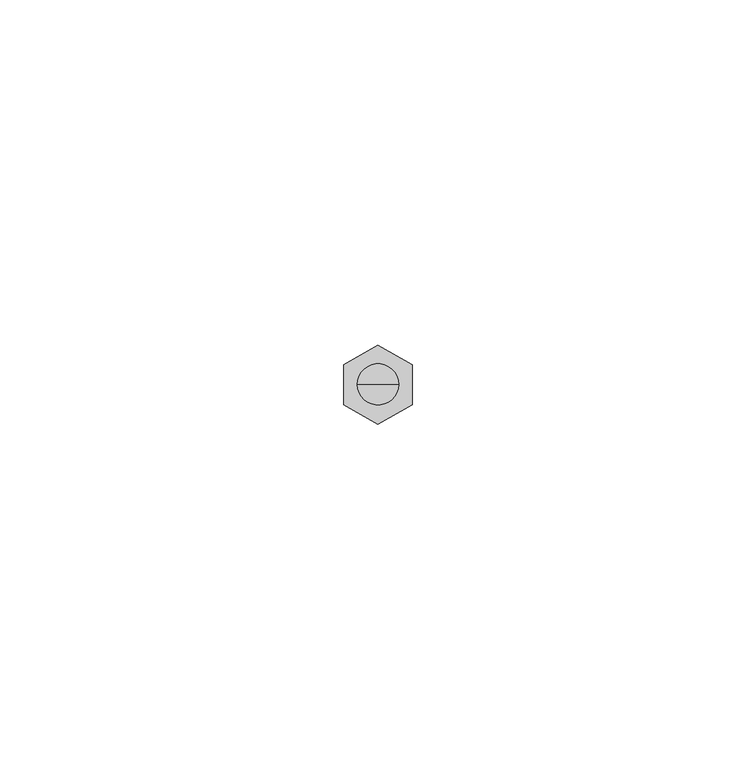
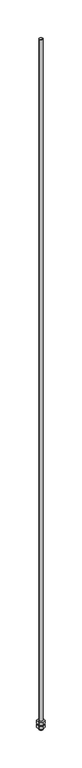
"""IFC4 building model written with IfcOpenShell, lengths in millimetres: proxy geometry, durlum_threaded_rod_M6 : durlum_threaded_rod_M6."""

from ifc_helpers import new_model, si_unit, frame, origin, origin_with_axes, place, context, project, spatial, polyline, circle_curve, outline, extrude, source, transform, mapped, element, save
from ifc_brep_helpers import plane_surface, cylinder_surface, advanced_brep


def generic_models_2999ce62(model_context):
    return source(origin(), model_context, "Body", "SolidModel", [
        extrude(outline(polyline([(5.0, 3.0421914), (5.0, -2.7313113), (0.0, -5.6180626), (-5.0, -2.7313113), (-5.0, 3.0421914), (0.0, 5.9289428), (5.0, 3.0421914)])), frame((0.0, 0.0, -7.0), z_axis=(0.0, 0.0, 1.0), x_axis=(1.0, 0.0, 0.0)), (0.0, 0.0, 1.0), 5.0),
        extrude(outline(polyline([(5.0, 3.0421914), (5.0, -2.7313113), (0.0, -5.6180626), (-5.0, -2.7313113), (-5.0, 3.0421914), (0.0, 5.9289428), (5.0, 3.0421914)])), origin_with_axes(), (0.0, 0.0, 1.0), 5.0),
        advanced_brep(
        [(-3.0, 0.0, 1161.1920963), (3.0, 0.0, 1161.1920963), (3.0, 0.0, -10.0), (-3.0, 0.0, -10.0), (0.0, 0.0, 1161.1920963), (0.0, 0.0, -10.0)],
        [
            (0, 1, circle_curve(frame((0.0, 0.0, 1161.1920963), z_axis=(0.0, 0.0, -1.0), x_axis=(1.0, 0.0, 0.0)), 3.0)),
            (1, 2),
            (2, 3, circle_curve(frame((0.0, 0.0, -10.0), z_axis=(0.0, 0.0, 1.0), x_axis=(1.0, 0.0, 0.0)), 3.0)),
            (3, 0),
            (1, 0, circle_curve(frame((0.0, 0.0, 1161.1920963), z_axis=(0.0, 0.0, -1.0), x_axis=(1.0, 0.0, 0.0)), 3.0)),
            (3, 2, circle_curve(frame((0.0, 0.0, -10.0), z_axis=(0.0, 0.0, 1.0), x_axis=(1.0, 0.0, 0.0)), 3.0)),
            (4, 1),
            (0, 4),
            (2, 5),
            (5, 3),
        ],
        [
            cylinder_surface(frame((0.0, 0.0, -675.0), z_axis=(0.0, 0.0, 1.0), x_axis=(1.0, 0.0, 0.0)), 3.0),
            plane_surface(frame((0.0, 0.0, 1161.1920963), z_axis=(0.0, 0.0, 1.0), x_axis=(1.0, 0.0, 0.0))),
            plane_surface(frame((0.0, 0.0, -10.0), z_axis=(0.0, 0.0, -1.0), x_axis=(1.0, 0.0, 0.0))),
        ],
        [
            (0, [[1, 2, 3, 4]]),
            (0, [[5, -4, 6, -2]]),
            (1, [[7, -1, 8]]),
            (1, [[-8, -5, -7]]),
            (2, [[-3, 9, 10]]),
            (2, [[-6, -10, -9]]),
        ],
    ),
    ])


if __name__ == "__main__":
    model = new_model("IFC4")
    model_context = context("Model", 3, world=origin())
    ifc_project = project(units=[si_unit("LENGTHUNIT", "METRE", prefix="MILLI")], contexts=[model_context])
    site = spatial("IfcSite", under=ifc_project)
    building = spatial("IfcBuilding", under=site)
    placement = place(None, origin())
    generic_models_shape = generic_models_2999ce62(model_context)
    element("IfcBuildingElementProxy", 1, Name="durlum_threaded_rod_M6 : durlum_threaded_rod_M6", ObjectType="durlum_threaded_rod_M6 : durlum_threaded_rod_M6", at=placement, inside=building, context=model_context, shape_type="MappedRepresentation", body=[
        mapped(generic_models_shape, transform((0.0, 0.0, 0.0), x_axis=(1.0, 0.0, 0.0), y_axis=(0.0, 1.0, 0.0), z_axis=(0.0, 0.0, 1.0))),
    ])
    save(model, "model.ifc")
